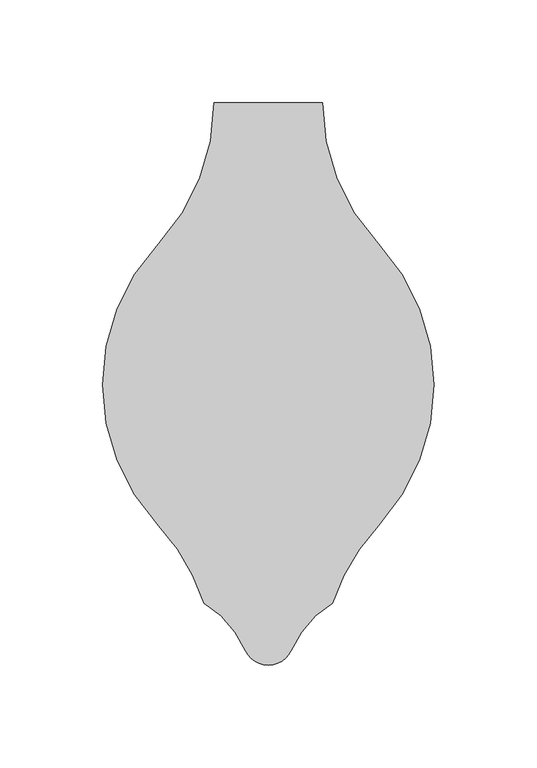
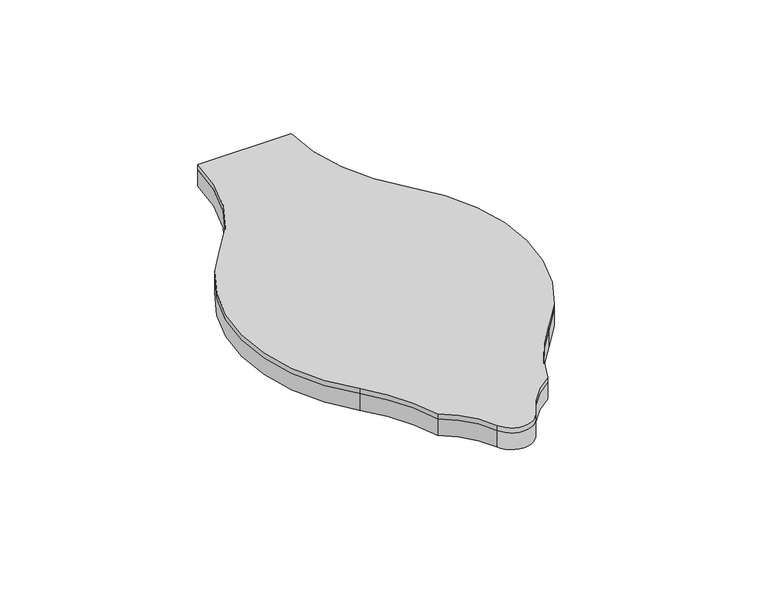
"""IFC4 building model written with IfcOpenShell, lengths in millimetres: proxy geometry, FilzFelt_Fish_Block : Fish Block."""

from ifc_helpers import new_model, si_unit, frame, origin, place, context, project, spatial, polyline, circle_curve, source, transform, mapped, element, save
from ifc_brep_helpers import plane_surface, cylinder_surface, revolved_surface, advanced_brep


def specialty_equipment_c87418b1(model_context):
    return source(origin(), model_context, "Body", "AdvancedBrep", [
        advanced_brep(
        [(53.5486457, -68.6120133, 10.0210937), (31.2619065, -106.3338576, 10.0210937), (11.0103348, -129.4133496, 10.0210937), (-11.0103348, -129.4133496, 10.0210937), (-31.2619065, -106.3338576, 10.0210937), (-53.5486457, -68.6120133, 10.0210937), (-80.7142226, 0.0, 10.0210937), (-53.5486457, 68.6120133, 10.0210937), (-26.3830688, 137.2240266, 10.0210937), (26.3830688, 137.2240266, 10.0210937), (53.5486457, 68.6120133, 10.0210937), (53.5486457, -68.6120133, 12.9976563), (80.7142226, 0.0, 12.9976563), (53.5486457, 68.6120133, 12.9976563), (26.3830688, 137.2240266, 12.9976563), (-26.3830688, 137.2240266, 12.9976563), (-53.5486457, 68.6120133, 12.9976563), (-80.7142226, 0.0, 12.9976563), (-53.5486457, -68.6120133, 12.9976563), (-31.2619065, -106.3338576, 12.9976563), (-11.0103348, -129.4133496, 12.9976563), (0.0, -136.5838795, 12.9976563), (11.0103348, -129.4133496, 12.9976563), (31.2619065, -106.3338576, 12.9976563)],
        [
            (0, 1, circle_curve(frame((126.6124317, -137.2240266, 10.0210937), z_axis=(0.0, 0.0, 1.0), x_axis=(-1.0, 0.0, 0.0)), 100.2293629)),
            (1, 2, circle_curve(frame((57.9263497, -150.1559416, 10.0210937), z_axis=(0.0, 0.0, 1.0), x_axis=(-1.0, 0.0, 0.0)), 51.2968574)),
            (2, 3, circle_curve(frame((0.0, -124.5454408, 10.0210937), z_axis=(0.0, 0.0, -1.0), x_axis=(-1.0, 0.0, 0.0)), 12.0384388)),
            (3, 4, circle_curve(frame((-57.9263497, -150.1559416, 10.0210937), z_axis=(0.0, 0.0, 1.0), x_axis=(-1.0, 0.0, 0.0)), 51.2968574)),
            (4, 5, circle_curve(frame((-126.6124317, -137.2240266, 10.0210937), z_axis=(0.0, 0.0, 1.0), x_axis=(-1.0, 0.0, 0.0)), 100.2293629)),
            (5, 6, circle_curve(frame((19.5151403, 0.0, 10.0210937), z_axis=(0.0, 0.0, -1.0), x_axis=(-1.0, 0.0, 0.0)), 100.2293629)),
            (6, 7, circle_curve(frame((19.5151403, 0.0, 10.0210937), z_axis=(0.0, 0.0, -1.0), x_axis=(-1.0, 0.0, 0.0)), 100.2293629)),
            (7, 8, circle_curve(frame((-126.6124317, 137.2240266, 10.0210937), z_axis=(0.0, 0.0, 1.0), x_axis=(-1.0, 0.0, 0.0)), 100.2293629)),
            (8, 9),
            (9, 10, circle_curve(frame((126.6124317, 137.2240266, 10.0210937), z_axis=(0.0, 0.0, 1.0), x_axis=(-1.0, 0.0, 0.0)), 100.2293629)),
            (10, 0, circle_curve(frame((-19.5151403, 0.0, 10.0210937), z_axis=(0.0, 0.0, -1.0), x_axis=(-1.0, 0.0, 0.0)), 100.2293629)),
            (11, 12, circle_curve(frame((-19.5151403, 0.0, 12.9976563), z_axis=(0.0, 0.0, 1.0), x_axis=(-1.0, 0.0, 0.0)), 100.2293629)),
            (12, 13, circle_curve(frame((-19.5151403, 0.0, 12.9976563), z_axis=(0.0, 0.0, 1.0), x_axis=(-1.0, 0.0, 0.0)), 100.2293629)),
            (13, 14, circle_curve(frame((126.6124317, 137.2240266, 12.9976563), z_axis=(0.0, 0.0, -1.0), x_axis=(-1.0, 0.0, 0.0)), 100.2293629)),
            (14, 15),
            (15, 16, circle_curve(frame((-126.6124317, 137.2240266, 12.9976563), z_axis=(0.0, 0.0, -1.0), x_axis=(-1.0, 0.0, 0.0)), 100.2293629)),
            (16, 17, circle_curve(frame((19.5151403, 0.0, 12.9976563), z_axis=(0.0, 0.0, 1.0), x_axis=(-1.0, 0.0, 0.0)), 100.2293629)),
            (17, 18, circle_curve(frame((19.5151403, 0.0, 12.9976563), z_axis=(0.0, 0.0, 1.0), x_axis=(-1.0, 0.0, 0.0)), 100.2293629)),
            (18, 19, circle_curve(frame((-126.6124317, -137.2240266, 12.9976563), z_axis=(0.0, 0.0, -1.0), x_axis=(-1.0, 0.0, 0.0)), 100.2293629)),
            (19, 20, circle_curve(frame((-57.9263497, -150.1559416, 12.9976563), z_axis=(0.0, 0.0, -1.0), x_axis=(-1.0, 0.0, 0.0)), 51.2968574)),
            (20, 21, circle_curve(frame((0.0, -124.5454408, 12.9976563), z_axis=(0.0, 0.0, 1.0), x_axis=(-1.0, 0.0, 0.0)), 12.0384388)),
            (21, 22, circle_curve(frame((0.0, -124.5454408, 12.9976563), z_axis=(0.0, 0.0, 1.0), x_axis=(-1.0, 0.0, 0.0)), 12.0384388)),
            (22, 23, circle_curve(frame((57.9263497, -150.1559416, 12.9976563), z_axis=(0.0, 0.0, -1.0), x_axis=(-1.0, 0.0, 0.0)), 51.2968574)),
            (23, 11, circle_curve(frame((126.6124317, -137.2240266, 12.9976563), z_axis=(0.0, 0.0, -1.0), x_axis=(-1.0, 0.0, 0.0)), 100.2293629)),
            (10, 13),
            (11, 0),
            (9, 14),
            (15, 8),
            (7, 16),
            (5, 18),
            (4, 19),
            (3, 20),
            (2, 22),
            (1, 23),
        ],
        [
            plane_surface(frame((0.0, 0.0, 10.0210937), z_axis=(0.0, 0.0, -1.0), x_axis=(0.0, 1.0, 0.0))),
            plane_surface(frame((0.0, 0.0, 12.9976563), z_axis=(0.0, 0.0, 1.0), x_axis=(0.0, 1.0, 0.0))),
            cylinder_surface(frame((-19.5151403, 0.0, 10.0210937), z_axis=(0.0, 0.0, -1.0), x_axis=(-1.0, 0.0, 0.0)), 100.2293629),
            revolved_surface(polyline([(26.383068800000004, 137.2240266, 12.9976563), (26.383068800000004, 137.2240266, 10.0210937)]), (126.6124317, 137.2240266, 10.0210937), (0.0, 0.0, 1.0)),
            revolved_surface(polyline([(-226.84179460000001, 137.2240266, 12.9976563), (-226.84179460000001, 137.2240266, 10.0210937)]), (-126.6124317, 137.2240266, 10.0210937), (0.0, 0.0, 1.0)),
            cylinder_surface(frame((19.5151403, 0.0, 10.0210937), z_axis=(0.0, 0.0, -1.0), x_axis=(-1.0, 0.0, 0.0)), 100.2293629),
            revolved_surface(polyline([(-226.84179460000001, -137.2240266, 12.9976563), (-226.84179460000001, -137.2240266, 10.0210937)]), (-126.6124317, -137.2240266, 10.0210937), (0.0, 0.0, 1.0)),
            revolved_surface(polyline([(-109.2232071, -150.1559416, 12.9976563), (-109.2232071, -150.1559416, 10.0210937)]), (-57.9263497, -150.1559416, 10.0210937), (0.0, 0.0, 1.0)),
            cylinder_surface(frame((0.0, -124.5454408, 10.0210937), z_axis=(0.0, 0.0, -1.0), x_axis=(-1.0, 0.0, 0.0)), 12.0384388),
            revolved_surface(polyline([(6.629492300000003, -150.1559416, 12.9976563), (6.629492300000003, -150.1559416, 10.0210937)]), (57.9263497, -150.1559416, 10.0210937), (0.0, 0.0, 1.0)),
            revolved_surface(polyline([(26.383068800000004, -137.2240266, 12.9976563), (26.383068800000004, -137.2240266, 10.0210937)]), (126.6124317, -137.2240266, 10.0210937), (0.0, 0.0, 1.0)),
            plane_surface(frame((112.4642226, 137.2240266, 12.9976562), z_axis=(0.0, 1.0, 0.0), x_axis=(0.0, 0.0, -1.0))),
        ],
        [
            (0, [[1, 2, 3, 4, 5, 6, 7, 8, 9, 10, 11]]),
            (1, [[12, 13, 14, 15, 16, 17, 18, 19, 20, 21, 22, 23, 24]]),
            (2, [[25, -13, -12, 26, -11]]),
            (3, [[-10, 27, -14, -25]]),
            (4, [[-16, 28, -8, 29]]),
            (5, [[-7, -6, 30, -18, -17, -29]]),
            (6, [[31, -19, -30, -5]]),
            (7, [[32, -20, -31, -4]]),
            (8, [[33, -22, -21, -32, -3]]),
            (9, [[34, -23, -33, -2]]),
            (10, [[-26, -24, -34, -1]]),
            (11, [[-28, -15, -27, -9]]),
        ],
    ),
        advanced_brep(
        [(-53.5486457, -68.6120133, 0.0), (-80.7142226, 0.0, 0.0), (-53.5486457, 68.6120133, 0.0), (-26.3830688, 137.2240266, 0.0), (26.3830688, 137.2240266, 0.0), (53.5486457, 68.6120133, 0.0), (80.7142226, 0.0, 0.0), (53.5486457, -68.6120133, 0.0), (31.2619065, -106.3338576, 0.0), (11.0103348, -129.4133496, 0.0), (0.0, -136.5838795, 0.0), (-11.0103348, -129.4133496, 0.0), (-31.2619065, -106.3338576, 0.0), (53.5486457, 68.6120133, 10.0210937), (26.3830688, 137.2240266, 10.0210937), (-26.3830688, 137.2240266, 10.0210937), (-53.5486457, 68.6120133, 10.0210937), (-80.7142226, 0.0, 10.0210937), (-53.5486457, -68.6120133, 10.0210937), (-31.2619065, -106.3338576, 10.0210937), (-11.0103348, -129.4133496, 10.0210937), (11.0103348, -129.4133496, 10.0210937), (31.2619065, -106.3338576, 10.0210937), (53.5486457, -68.6120133, 10.0210937)],
        [
            (0, 1, circle_curve(frame((19.5151403, 0.0, 0.0), z_axis=(0.0, 0.0, -1.0), x_axis=(-1.0, 0.0, 0.0)), 100.2293629)),
            (1, 2, circle_curve(frame((19.5151403, 0.0, 0.0), z_axis=(0.0, 0.0, -1.0), x_axis=(-1.0, 0.0, 0.0)), 100.2293629)),
            (2, 3, circle_curve(frame((-126.6124317, 137.2240266, 0.0), z_axis=(0.0, 0.0, 1.0), x_axis=(-1.0, 0.0, 0.0)), 100.2293629)),
            (3, 4),
            (4, 5, circle_curve(frame((126.6124317, 137.2240266, 0.0), z_axis=(0.0, 0.0, 1.0), x_axis=(-1.0, 0.0, 0.0)), 100.2293629)),
            (5, 6, circle_curve(frame((-19.5151403, 0.0, 0.0), z_axis=(0.0, 0.0, -1.0), x_axis=(-1.0, 0.0, 0.0)), 100.2293629)),
            (6, 7, circle_curve(frame((-19.5151403, 0.0, 0.0), z_axis=(0.0, 0.0, -1.0), x_axis=(-1.0, 0.0, 0.0)), 100.2293629)),
            (7, 8, circle_curve(frame((126.6124317, -137.2240266, 0.0), z_axis=(0.0, 0.0, 1.0), x_axis=(-1.0, 0.0, 0.0)), 100.2293629)),
            (8, 9, circle_curve(frame((57.9263497, -150.1559416, 0.0), z_axis=(0.0, 0.0, 1.0), x_axis=(-1.0, 0.0, 0.0)), 51.2968574)),
            (9, 10, circle_curve(frame((0.0, -124.5454408, 0.0), z_axis=(0.0, 0.0, -1.0), x_axis=(-1.0, 0.0, 0.0)), 12.0384388)),
            (10, 11, circle_curve(frame((0.0, -124.5454408, 0.0), z_axis=(0.0, 0.0, -1.0), x_axis=(-1.0, 0.0, 0.0)), 12.0384388)),
            (11, 12, circle_curve(frame((-57.9263497, -150.1559416, 0.0), z_axis=(0.0, 0.0, 1.0), x_axis=(-1.0, 0.0, 0.0)), 51.2968574)),
            (12, 0, circle_curve(frame((-126.6124317, -137.2240266, 0.0), z_axis=(0.0, 0.0, 1.0), x_axis=(-1.0, 0.0, 0.0)), 100.2293629)),
            (13, 14, circle_curve(frame((126.6124317, 137.2240266, 10.0210937), z_axis=(0.0, 0.0, -1.0), x_axis=(-1.0, 0.0, 0.0)), 100.2293629)),
            (14, 15),
            (15, 16, circle_curve(frame((-126.6124317, 137.2240266, 10.0210937), z_axis=(0.0, 0.0, -1.0), x_axis=(-1.0, 0.0, 0.0)), 100.2293629)),
            (16, 17, circle_curve(frame((19.5151403, 0.0, 10.0210937), z_axis=(0.0, 0.0, 1.0), x_axis=(-1.0, 0.0, 0.0)), 100.2293629)),
            (17, 18, circle_curve(frame((19.5151403, 0.0, 10.0210937), z_axis=(0.0, 0.0, 1.0), x_axis=(-1.0, 0.0, 0.0)), 100.2293629)),
            (18, 19, circle_curve(frame((-126.6124317, -137.2240266, 10.0210937), z_axis=(0.0, 0.0, -1.0), x_axis=(-1.0, 0.0, 0.0)), 100.2293629)),
            (19, 20, circle_curve(frame((-57.9263497, -150.1559416, 10.0210937), z_axis=(0.0, 0.0, -1.0), x_axis=(-1.0, 0.0, 0.0)), 51.2968574)),
            (20, 21, circle_curve(frame((0.0, -124.5454408, 10.0210937), z_axis=(0.0, 0.0, 1.0), x_axis=(-1.0, 0.0, 0.0)), 12.0384388)),
            (21, 22, circle_curve(frame((57.9263497, -150.1559416, 10.0210937), z_axis=(0.0, 0.0, -1.0), x_axis=(-1.0, 0.0, 0.0)), 51.2968574)),
            (22, 23, circle_curve(frame((126.6124317, -137.2240266, 10.0210937), z_axis=(0.0, 0.0, -1.0), x_axis=(-1.0, 0.0, 0.0)), 100.2293629)),
            (23, 13, circle_curve(frame((-19.5151403, 0.0, 10.0210937), z_axis=(0.0, 0.0, 1.0), x_axis=(-1.0, 0.0, 0.0)), 100.2293629)),
            (15, 3),
            (2, 16),
            (0, 18),
            (12, 19),
            (11, 20),
            (9, 21),
            (8, 22),
            (7, 23),
            (5, 13),
            (4, 14),
        ],
        [
            plane_surface(frame((0.0, 0.0, 0.0), z_axis=(0.0, 0.0, -1.0), x_axis=(0.0, 1.0, 0.0))),
            plane_surface(frame((0.0, 0.0, 10.0210937), z_axis=(0.0, 0.0, 1.0), x_axis=(0.0, 1.0, 0.0))),
            revolved_surface(polyline([(-226.84179460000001, 137.2240266, 10.0210937), (-226.84179460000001, 137.2240266, 0.0)]), (-126.6124317, 137.2240266, 0.0), (0.0, 0.0, 1.0)),
            cylinder_surface(frame((19.5151403, 0.0, 0.0), z_axis=(0.0, 0.0, -1.0), x_axis=(-1.0, 0.0, 0.0)), 100.2293629),
            revolved_surface(polyline([(-226.84179460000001, -137.2240266, 10.0210937), (-226.84179460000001, -137.2240266, 0.0)]), (-126.6124317, -137.2240266, 0.0), (0.0, 0.0, 1.0)),
            revolved_surface(polyline([(-109.2232071, -150.1559416, 10.0210937), (-109.2232071, -150.1559416, 0.0)]), (-57.9263497, -150.1559416, 0.0), (0.0, 0.0, 1.0)),
            cylinder_surface(frame((0.0, -124.5454408, 0.0), z_axis=(0.0, 0.0, -1.0), x_axis=(-1.0, 0.0, 0.0)), 12.0384388),
            revolved_surface(polyline([(6.629492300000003, -150.1559416, 10.0210937), (6.629492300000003, -150.1559416, 0.0)]), (57.9263497, -150.1559416, 0.0), (0.0, 0.0, 1.0)),
            revolved_surface(polyline([(26.383068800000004, -137.2240266, 10.0210937), (26.383068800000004, -137.2240266, 0.0)]), (126.6124317, -137.2240266, 0.0), (0.0, 0.0, 1.0)),
            cylinder_surface(frame((-19.5151403, 0.0, 0.0), z_axis=(0.0, 0.0, -1.0), x_axis=(-1.0, 0.0, 0.0)), 100.2293629),
            revolved_surface(polyline([(26.383068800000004, 137.2240266, 10.0210937), (26.383068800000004, 137.2240266, 0.0)]), (126.6124317, 137.2240266, 0.0), (0.0, 0.0, 1.0)),
            plane_surface(frame((112.4642226, 137.2240266, 12.9976562), z_axis=(0.0, 1.0, 0.0), x_axis=(0.0, 0.0, -1.0))),
        ],
        [
            (0, [[1, 2, 3, 4, 5, 6, 7, 8, 9, 10, 11, 12, 13]]),
            (1, [[14, 15, 16, 17, 18, 19, 20, 21, 22, 23, 24]]),
            (2, [[-16, 25, -3, 26]]),
            (3, [[-2, -1, 27, -18, -17, -26]]),
            (4, [[28, -19, -27, -13]]),
            (5, [[29, -20, -28, -12]]),
            (6, [[-29, -11, -10, 30, -21]]),
            (7, [[31, -22, -30, -9]]),
            (8, [[32, -23, -31, -8]]),
            (9, [[-32, -7, -6, 33, -24]]),
            (10, [[-5, 34, -14, -33]]),
            (11, [[-25, -15, -34, -4]]),
        ],
    ),
    ])


if __name__ == "__main__":
    model = new_model("IFC4")
    model_context = context("Model", 3, world=origin())
    ifc_project = project(units=[si_unit("LENGTHUNIT", "METRE", prefix="MILLI")], contexts=[model_context])
    site = spatial("IfcSite", under=ifc_project)
    building = spatial("IfcBuilding", under=site)
    placement = place(None, origin())
    specialty_equipment_shape = specialty_equipment_c87418b1(model_context)
    element("IfcBuildingElementProxy", 1, Name="FilzFelt_Fish_Block : Fish Block", ObjectType="FilzFelt_Fish_Block : Fish Block", at=placement, inside=building, context=model_context, shape_type="MappedRepresentation", body=[
        mapped(specialty_equipment_shape, transform((0.0, 0.0, 0.0), x_axis=(1.0, 0.0, 0.0), y_axis=(0.0, 1.0, 0.0), z_axis=(0.0, 0.0, 1.0))),
    ])
    save(model, "model.ifc")
